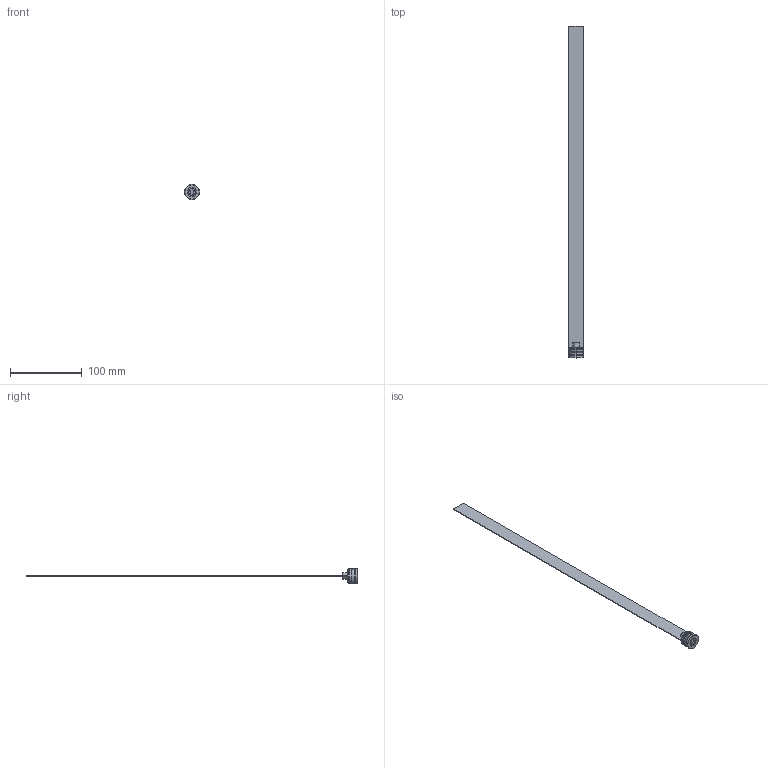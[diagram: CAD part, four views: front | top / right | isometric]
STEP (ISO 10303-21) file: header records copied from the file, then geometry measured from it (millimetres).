
FILE_DESCRIPTION (( 'STEP AP203' ), '1' );
FILE_NAME ('RL-20Fx450.STEP', '2015-12-02T15:13:33', ( 'Balzi' ), ( '' ), 'SwSTEP 2.0', 'SolidWorks 2015', '' );
FILE_SCHEMA (( 'CONFIG_CONTROL_DESIGN' ));
Length unit declared in the file: millimetre
Products named in the file (1): RL-20Fx450
Bounding box: 21.5 x 464 x 21.5 mm (x, y, z)
Volume: 13411.7 mm3; surface area: 21005.8 mm2
Topology: 1 solids, 1 shells, 75 faces, 177 edges, 109 vertices
Faces by surface type: plane 31, cone 19, cylinder 17, torus 8
Entity records: 2245 total; most frequent: CARTESIAN_POINT 412, DIRECTION 386, ORIENTED_EDGE 354, EDGE_CURVE 177, AXIS2_PLACEMENT_3D 147, VERTEX_POINT 109, LINE 92, VECTOR 92
